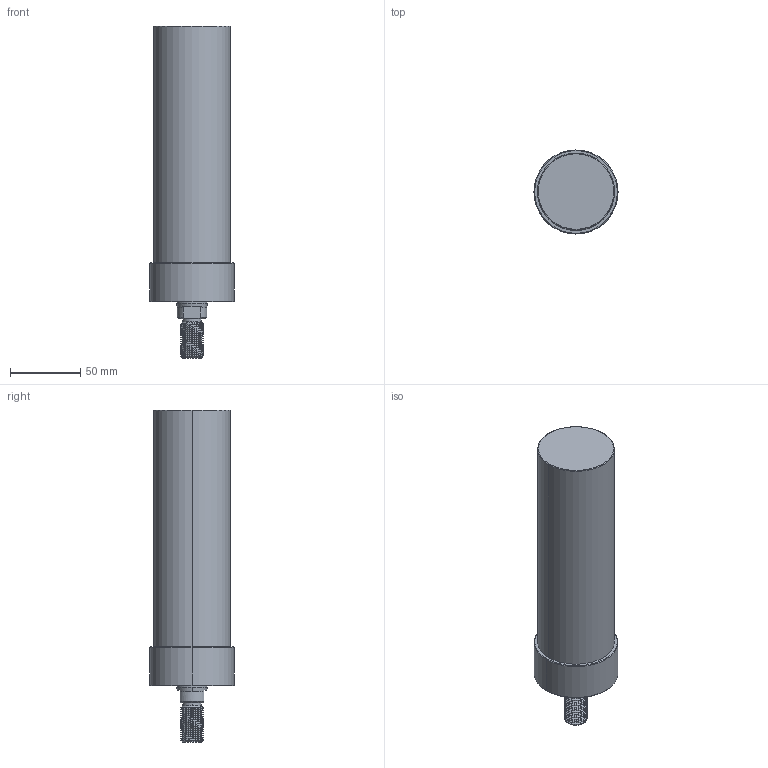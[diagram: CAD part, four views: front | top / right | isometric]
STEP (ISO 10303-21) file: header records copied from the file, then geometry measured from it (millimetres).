
FILE_DESCRIPTION (( 'STEP AP203' ), '1' );
FILE_NAME ('CLLU-055GT-140.STEP', '2020-01-16T02:02:08', ( '' ), ( '' ), 'SwSTEP 2.0', 'SolidWorks 2015', '' );
FILE_SCHEMA (( 'CONFIG_CONTROL_DESIGN' ));
Length unit declared in the file: millimetre
Products named in the file (1): CLLU-055GT-140
Bounding box: 60 x 60 x 237 mm (x, y, z)
Volume: 487992.7 mm3; surface area: 44154.4 mm2
Topology: 1 solids, 1 shells, 102 faces, 254 edges, 155 vertices
Faces by surface type: cylinder 56, cone 26, plane 12, torus 6, bspline 2
Entity records: 4894 total; most frequent: CARTESIAN_POINT 2603, ORIENTED_EDGE 492, DIRECTION 445, EDGE_CURVE 246, AXIS2_PLACEMENT_3D 178, VERTEX_POINT 155, EDGE_LOOP 111, FACE_OUTER_BOUND 102
